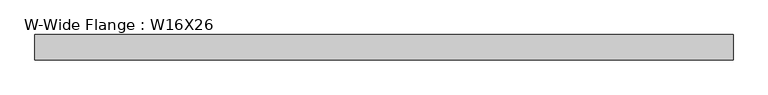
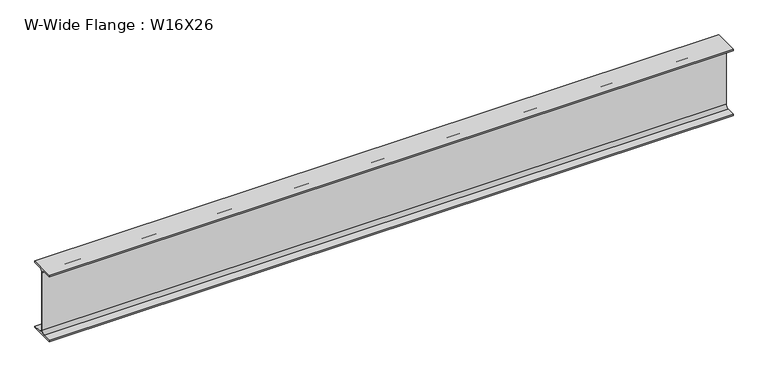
"""IFC4 building model written with IfcOpenShell, lengths in millimetres: beam geometry, W-Wide Flange : W16X26."""

from ifc_helpers import new_model, si_unit, point, frame, frame_2d, origin, place, context, project, spatial, polyline, circle_curve, trimmed, segment, composite_curve, outline, extrude, source, transform, mapped, element, save


def w_wide_flange_w16x26_e3668a51(model_context):
    return source(origin(), model_context, "Body", "SweptSolid", [
        extrude(outline(composite_curve([segment(polyline([(-69.85, -190.5496094), (-21.43125, -190.5496094)]), True, "CONTINUOUS"), segment(trimmed(circle_curve(frame_2d((-21.43125, -172.2933594)), 18.25625), [point((-21.43125, -190.5496094))], [point((-3.175, -172.2933594))], True, "CARTESIAN"), True, "CONTINUOUS"), segment(polyline([(-3.175, -172.2933594), (-3.175, 172.2933594)]), True, "CONTINUOUS"), segment(trimmed(circle_curve(frame_2d((-21.43125, 172.2933594)), 18.25625), [point((-3.175, 172.2933594))], [point((-21.43125, 190.5496094))], True, "CARTESIAN"), True, "CONTINUOUS"), segment(polyline([(-21.43125, 190.5496094), (-69.85, 190.5496094), (-69.85, 199.2808594), (69.85, 199.2808594), (69.85, 190.5496094), (21.43125, 190.5496094)]), True, "CONTINUOUS"), segment(trimmed(circle_curve(frame_2d((21.43125, 172.2933594)), 18.25625), [point((21.43125, 190.5496094))], [point((3.175, 172.2933594))], True, "CARTESIAN"), True, "CONTINUOUS"), segment(polyline([(3.175, 172.2933594), (3.175, -172.2933594)]), True, "CONTINUOUS"), segment(trimmed(circle_curve(frame_2d((21.43125, -172.2933594)), 18.25625), [point((3.175, -172.2933594))], [point((21.43125, -190.5496094))], True, "CARTESIAN"), True, "CONTINUOUS"), segment(polyline([(21.43125, -190.5496094), (69.85, -190.5496094), (69.85, -199.2808594), (-69.85, -199.2808594), (-69.85, -190.5496094)]), True, "CONTINUOUS")], self_intersect=False)), frame((-1892.3, 0.0, 0.0), z_axis=(1.0, 0.0, 0.0), x_axis=(0.0, 1.0, 0.0)), (0.0, 0.0, 1.0), 3873.5),
    ])


if __name__ == "__main__":
    model = new_model("IFC4")
    model_context = context("Model", 3, world=origin())
    ifc_project = project(units=[si_unit("LENGTHUNIT", "METRE", prefix="MILLI")], contexts=[model_context])
    site = spatial("IfcSite", under=ifc_project)
    building = spatial("IfcBuilding", under=site)
    placement = place(None, origin())
    w_wide_flange_w16x26_shape = w_wide_flange_w16x26_e3668a51(model_context)
    element("IfcBeam", 1, ObjectType="W-Wide Flange : W16X26", at=placement, inside=building, context=model_context, shape_type="MappedRepresentation", body=[
        mapped(w_wide_flange_w16x26_shape, transform((0.0, 0.0, 0.0), x_axis=(1.0, 0.0, 0.0), y_axis=(0.0, 1.0, 0.0), z_axis=(0.0, 0.0, 1.0))),
    ])
    save(model, "model.ifc")
